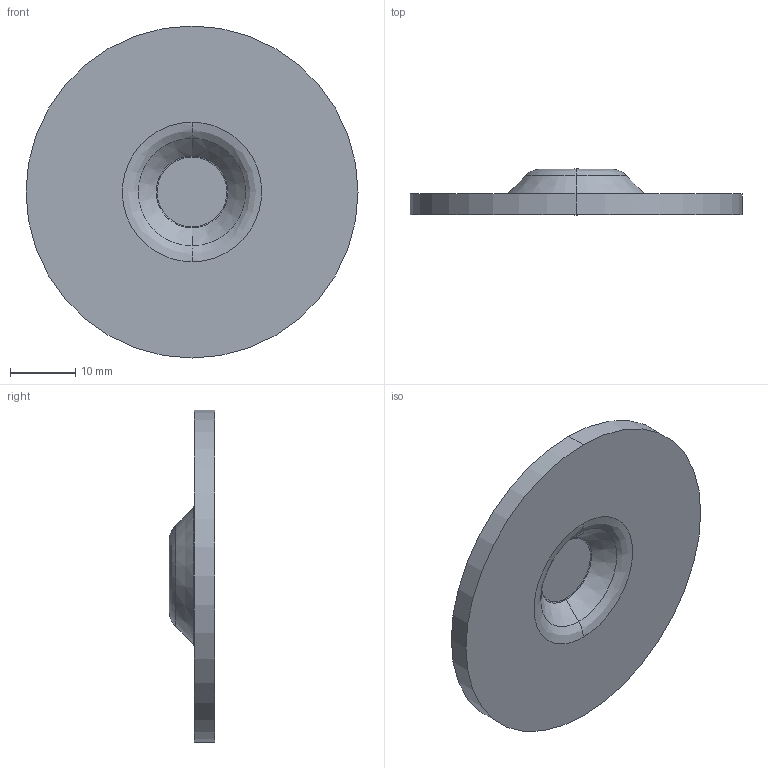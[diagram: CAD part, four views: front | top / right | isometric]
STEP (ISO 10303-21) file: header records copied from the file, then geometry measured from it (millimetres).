
FILE_DESCRIPTION (( 'STEP AP203' ), '1' );
FILE_NAME ('SO 1602241-10.STEP', '2024-09-16T15:30:49', ( '' ), ( '' ), 'SwSTEP 2.0', 'SolidWorks 2024', '' );
FILE_SCHEMA (( 'CONFIG_CONTROL_DESIGN' ));
Length unit declared in the file: inch
Products named in the file (1): SO 1602241-10
Bounding box: 50.8 x 6.99 x 50.8 mm (x, y, z)
Volume: 6661.8 mm3; surface area: 4702.9 mm2
Topology: 1 solids, 1 shells, 18 faces, 34 edges, 20 vertices
Faces by surface type: bspline 8, cone 4, plane 4, cylinder 2
Entity records: 779 total; most frequent: CARTESIAN_POINT 373, DIRECTION 68, ORIENTED_EDGE 68, EDGE_CURVE 34, AXIS2_PLACEMENT_3D 31, CIRCLE 20, VERTEX_POINT 20, EDGE_LOOP 20
